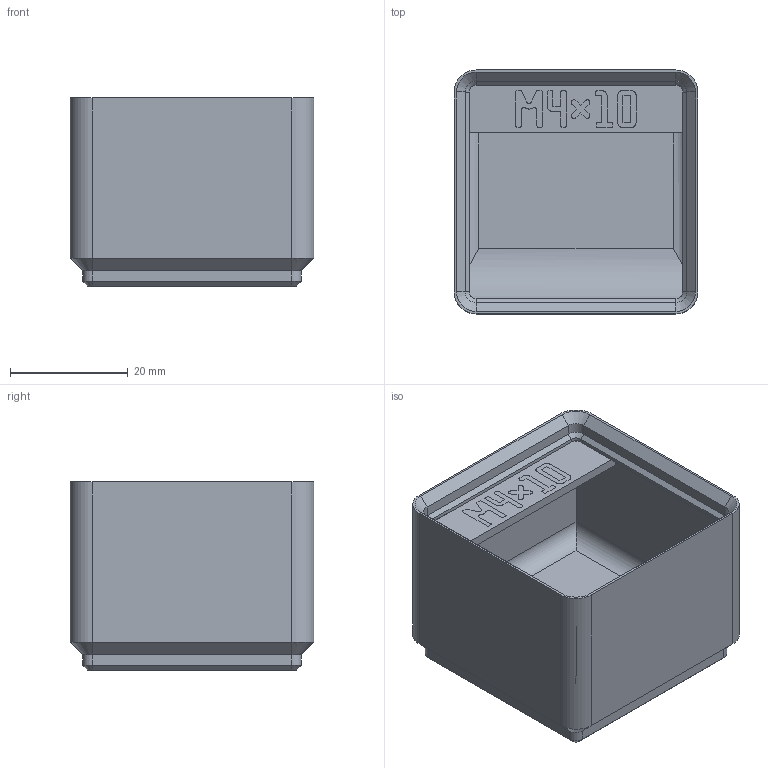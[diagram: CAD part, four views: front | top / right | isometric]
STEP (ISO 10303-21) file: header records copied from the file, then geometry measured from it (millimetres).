
FILE_DESCRIPTION(('Open CASCADE Model'),'2;1');
FILE_NAME('bin_M4_10','2026-11-03T10:52:25',('Author'),('Open CASCADE'), 'Open CASCADE STEP processor 8.0','build123d','Unknown');
FILE_SCHEMA(('AUTOMOTIVE_DESIGN { 1 0 10303 214 1 1 1 1 }'));
Length unit declared in the file: millimetre
Products named in the file (3): bin_M4_10; M4_10_body; M4_10_label
Assembly tree (2 placements, depth 2):
  bin_M4_10
    M4_10_body
    M4_10_label
Bounding box: 41.5 x 41.5 x 32 mm (x, y, z)
Volume: 16774.6 mm3; surface area: 12709.5 mm2
Topology: 6 solids, 6 shells, 985 faces, 2836 edges, 1870 vertices
Faces by surface type: plane 945, cylinder 20, cone 20
Entity records: 68549 total; most frequent: CARTESIAN_POINT 11928, DIRECTION 10293, LINE 8208, VECTOR 8208, ORIENTED_EDGE 5672, PCURVE 5672, DEFINITIONAL_REPRESENTATION 5672, EDGE_CURVE 2836
